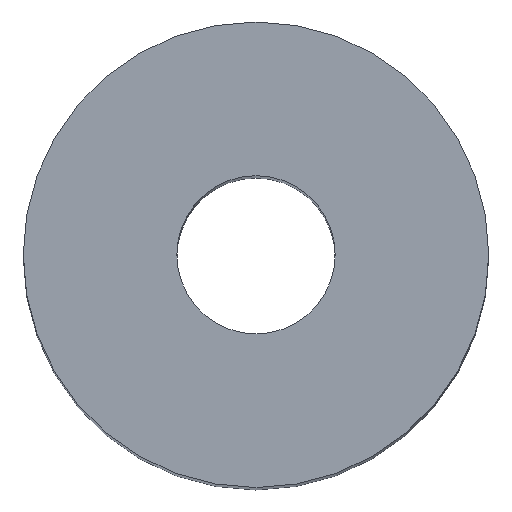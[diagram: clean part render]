
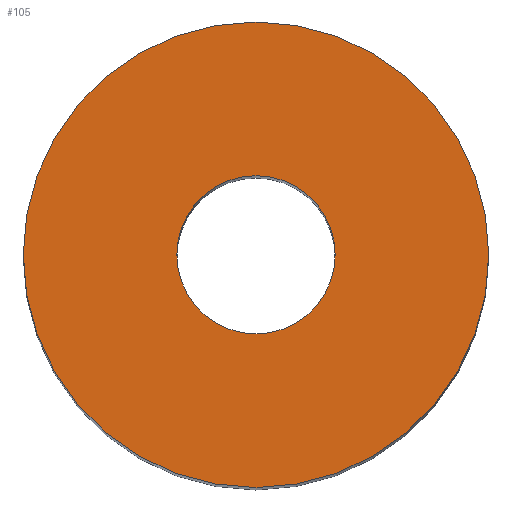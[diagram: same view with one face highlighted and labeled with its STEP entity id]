
A CAD part, top view. The second image highlights one B-rep face of the part: STEP entity #105.
In plain terms, the highlighted planar face has unit normal (0, 0, 1).
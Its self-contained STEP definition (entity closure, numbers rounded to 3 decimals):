
#21 = EDGE_CURVE('',#22,#22,#24,.T.);
#22 = VERTEX_POINT('',#23);
#23 = CARTESIAN_POINT('',(5.,0.,30.));
#24 = SURFACE_CURVE('',#25,(#30,#42),.PCURVE_S1.);
#25 = CIRCLE('',#26,5.);
#26 = AXIS2_PLACEMENT_3D('',#27,#28,#29);
#27 = CARTESIAN_POINT('',(0.,0.,30.));
#28 = DIRECTION('',(0.,0.,1.));
#29 = DIRECTION('',(1.,0.,-0.));
#30 = PCURVE('',#31,#36);
#31 = CYLINDRICAL_SURFACE('',#32,5.);
#32 = AXIS2_PLACEMENT_3D('',#33,#34,#35);
#33 = CARTESIAN_POINT('',(0.,0.,0.));
#34 = DIRECTION('',(0.,0.,1.));
#35 = DIRECTION('',(1.,0.,-0.));
#36 = DEFINITIONAL_REPRESENTATION('',(#37),#41);
#37 = LINE('',#38,#39);
#38 = CARTESIAN_POINT('',(0.,30.));
#39 = VECTOR('',#40,1.);
#40 = DIRECTION('',(1.,0.));
#41 = ( GEOMETRIC_REPRESENTATION_CONTEXT(2) 
PARAMETRIC_REPRESENTATION_CONTEXT() REPRESENTATION_CONTEXT('2D SPACE',''
  ) );
#42 = PCURVE('',#43,#48);
#43 = PLANE('',#44);
#44 = AXIS2_PLACEMENT_3D('',#45,#46,#47);
#45 = CARTESIAN_POINT('',(0.,0.,30.));
#46 = DIRECTION('',(0.,0.,1.));
#47 = DIRECTION('',(1.,0.,-0.));
#48 = DEFINITIONAL_REPRESENTATION('',(#49),#53);
#49 = CIRCLE('',#50,5.);
#50 = AXIS2_PLACEMENT_2D('',#51,#52);
#51 = CARTESIAN_POINT('',(0.,0.));
#52 = DIRECTION('',(1.,0.));
#53 = ( GEOMETRIC_REPRESENTATION_CONTEXT(2) 
PARAMETRIC_REPRESENTATION_CONTEXT() REPRESENTATION_CONTEXT('2D SPACE',''
  ) );
#105 = ADVANCED_FACE('',(#106,#109),#43,.T.);
#106 = FACE_BOUND('',#107,.T.);
#107 = EDGE_LOOP('',(#108));
#108 = ORIENTED_EDGE('',*,*,#21,.T.);
#109 = FACE_BOUND('',#110,.T.);
#110 = EDGE_LOOP('',(#111));
#111 = ORIENTED_EDGE('',*,*,#112,.F.);
#112 = EDGE_CURVE('',#113,#113,#115,.T.);
#113 = VERTEX_POINT('',#114);
#114 = CARTESIAN_POINT('',(1.7,0.,30.));
#115 = SURFACE_CURVE('',#116,(#121,#128),.PCURVE_S1.);
#116 = CIRCLE('',#117,1.7);
#117 = AXIS2_PLACEMENT_3D('',#118,#119,#120);
#118 = CARTESIAN_POINT('',(0.,0.,30.));
#119 = DIRECTION('',(0.,0.,1.));
#120 = DIRECTION('',(1.,0.,-0.));
#121 = PCURVE('',#43,#122);
#122 = DEFINITIONAL_REPRESENTATION('',(#123),#127);
#123 = CIRCLE('',#124,1.7);
#124 = AXIS2_PLACEMENT_2D('',#125,#126);
#125 = CARTESIAN_POINT('',(0.,0.));
#126 = DIRECTION('',(1.,0.));
#127 = ( GEOMETRIC_REPRESENTATION_CONTEXT(2) 
PARAMETRIC_REPRESENTATION_CONTEXT() REPRESENTATION_CONTEXT('2D SPACE',''
  ) );
#128 = PCURVE('',#129,#134);
#129 = CYLINDRICAL_SURFACE('',#130,1.7);
#130 = AXIS2_PLACEMENT_3D('',#131,#132,#133);
#131 = CARTESIAN_POINT('',(0.,0.,-1.));
#132 = DIRECTION('',(0.,0.,1.));
#133 = DIRECTION('',(1.,0.,-0.));
#134 = DEFINITIONAL_REPRESENTATION('',(#135),#139);
#135 = LINE('',#136,#137);
#136 = CARTESIAN_POINT('',(0.,31.));
#137 = VECTOR('',#138,1.);
#138 = DIRECTION('',(1.,0.));
#139 = ( GEOMETRIC_REPRESENTATION_CONTEXT(2) 
PARAMETRIC_REPRESENTATION_CONTEXT() REPRESENTATION_CONTEXT('2D SPACE',''
  ) );
